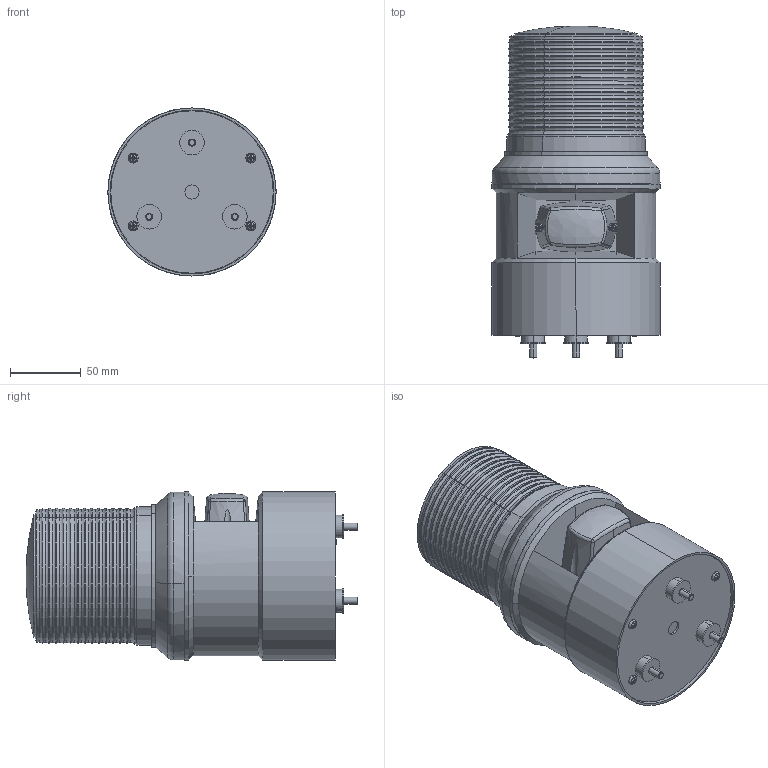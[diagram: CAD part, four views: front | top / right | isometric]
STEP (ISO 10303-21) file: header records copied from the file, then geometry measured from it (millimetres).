
FILE_DESCRIPTION (( 'STEP AP203' ), '1' );
FILE_NAME ('QKR572_3D00297 S100DL 3D紫賊_221025.STEP', '2022-10-25T04:42:24', ( 'QKR_NOTE119' ), ( '' ), 'SwSTEP 2.0', 'SolidWorks 2019', '' );
FILE_SCHEMA (( 'CONFIG_CONTROL_DESIGN' ));
Length unit declared in the file: millimetre
Products named in the file (1): QKR572_3D00297 S100DL 3D紫賊_221025
Bounding box: 119 x 235 x 119 mm (x, y, z)
Volume: 1912430.3 mm3; surface area: 120538.4 mm2
Topology: 1 solids, 8 shells, 497 faces, 1170 edges, 693 vertices
Faces by surface type: torus 155, plane 153, cylinder 86, cone 61, bspline 30, sphere 12
Entity records: 18014 total; most frequent: CARTESIAN_POINT 6600, DIRECTION 2578, ORIENTED_EDGE 2310, AXIS2_PLACEMENT_3D 1174, EDGE_CURVE 1155, CIRCLE 706, VERTEX_POINT 693, EDGE_LOOP 528
